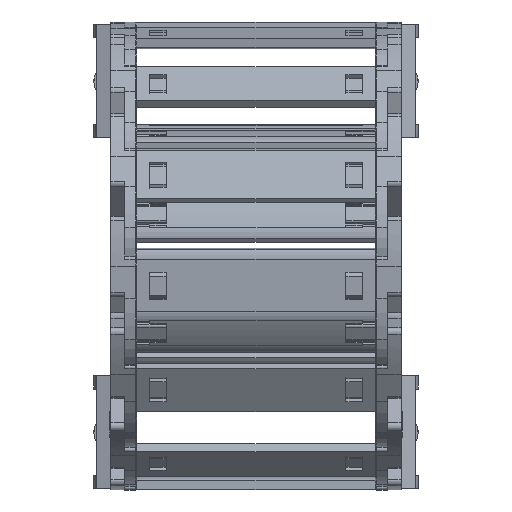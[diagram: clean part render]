
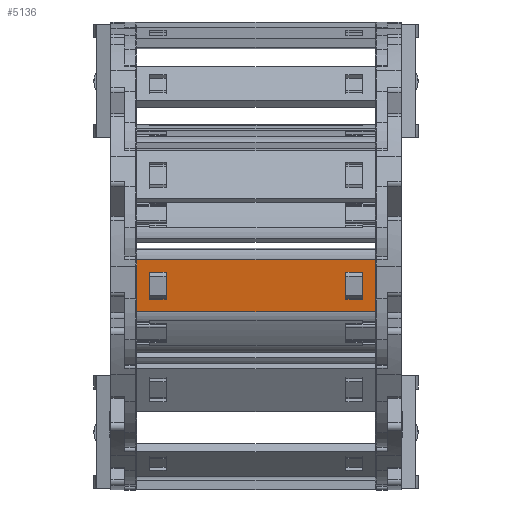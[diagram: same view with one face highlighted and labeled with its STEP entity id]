
A CAD part, top view. The second image highlights one B-rep face of the part: STEP entity #5136.
In plain terms, the highlighted planar face has unit normal (0, -0.104, 0.995) as drawn and (0, 1, 0) by its records, which use the part's own axes.
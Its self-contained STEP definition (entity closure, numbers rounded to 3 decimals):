
#4541=DIRECTION('',(0.,0.,-1.));
#4542=VECTOR('',#4541,11.);
#4543=CARTESIAN_POINT('',(39.283,1.24,5.5));
#4544=LINE('',#4543,#4542);
#4567=DIRECTION('',(1.,0.,0.));
#4568=VECTOR('',#4567,50.5);
#4569=CARTESIAN_POINT('',(-11.217,1.24,5.5));
#4570=LINE('',#4569,#4568);
#4571=DIRECTION('',(0.,0.,1.));
#4572=VECTOR('',#4571,11.);
#4573=CARTESIAN_POINT('',(-11.217,1.24,-5.5));
#4574=LINE('',#4573,#4572);
#4597=DIRECTION('',(1.,0.,0.));
#4598=VECTOR('',#4597,50.5);
#4599=CARTESIAN_POINT('',(-11.217,1.24,-5.5));
#4600=LINE('',#4599,#4598);
#4601=DIRECTION('',(1.,0.,0.));
#4602=VECTOR('',#4601,3.6);
#4603=CARTESIAN_POINT('',(-8.605,1.24,2.899));
#4604=LINE('',#4603,#4602);
#4605=DIRECTION('',(0.,0.,-1.));
#4606=VECTOR('',#4605,5.798);
#4607=CARTESIAN_POINT('',(-5.005,1.24,2.899));
#4608=LINE('',#4607,#4606);
#4609=DIRECTION('',(-1.,0.,0.));
#4610=VECTOR('',#4609,3.6);
#4611=CARTESIAN_POINT('',(-5.005,1.24,-2.899));
#4612=LINE('',#4611,#4610);
#4613=DIRECTION('',(0.,0.,1.));
#4614=VECTOR('',#4613,5.798);
#4615=CARTESIAN_POINT('',(-8.605,1.24,-2.899));
#4616=LINE('',#4615,#4614);
#4617=DIRECTION('',(1.,0.,0.));
#4618=VECTOR('',#4617,3.6);
#4619=CARTESIAN_POINT('',(33.071,1.24,2.899));
#4620=LINE('',#4619,#4618);
#4621=DIRECTION('',(0.,0.,-1.));
#4622=VECTOR('',#4621,5.798);
#4623=CARTESIAN_POINT('',(36.671,1.24,2.899));
#4624=LINE('',#4623,#4622);
#4625=DIRECTION('',(-1.,0.,0.));
#4626=VECTOR('',#4625,3.6);
#4627=CARTESIAN_POINT('',(36.671,1.24,-2.899));
#4628=LINE('',#4627,#4626);
#4629=DIRECTION('',(0.,0.,1.));
#4630=VECTOR('',#4629,5.798);
#4631=CARTESIAN_POINT('',(33.071,1.24,-2.899));
#4632=LINE('',#4631,#4630);
#4940=CARTESIAN_POINT('',(39.283,1.24,5.5));
#4942=VERTEX_POINT('',#4940);
#4943=CARTESIAN_POINT('',(39.283,1.24,-5.5));
#4944=VERTEX_POINT('',#4943);
#4951=CARTESIAN_POINT('',(33.071,1.24,2.899));
#4952=CARTESIAN_POINT('',(36.671,1.24,2.899));
#4953=VERTEX_POINT('',#4951);
#4954=VERTEX_POINT('',#4952);
#4955=CARTESIAN_POINT('',(36.671,1.24,-2.899));
#4956=VERTEX_POINT('',#4955);
#4957=CARTESIAN_POINT('',(33.071,1.24,-2.899));
#4958=VERTEX_POINT('',#4957);
#4995=CARTESIAN_POINT('',(-11.217,1.24,5.5));
#4997=VERTEX_POINT('',#4995);
#4999=CARTESIAN_POINT('',(-11.217,1.24,-5.5));
#5000=VERTEX_POINT('',#4999);
#5007=CARTESIAN_POINT('',(-8.605,1.24,2.899));
#5008=CARTESIAN_POINT('',(-5.005,1.24,2.899));
#5009=VERTEX_POINT('',#5007);
#5010=VERTEX_POINT('',#5008);
#5011=CARTESIAN_POINT('',(-5.005,1.24,-2.899));
#5012=VERTEX_POINT('',#5011);
#5013=CARTESIAN_POINT('',(-8.605,1.24,-2.899));
#5014=VERTEX_POINT('',#5013);
#5104=CARTESIAN_POINT('',(51.769,1.24,6.978));
#5105=DIRECTION('',(0.,-1.,0.));
#5106=DIRECTION('',(0.,0.,-1.));
#5107=AXIS2_PLACEMENT_3D('',#5104,#5105,#5106);
#5108=PLANE('',#5107);
#5109=ORIENTED_EDGE('',*,*,#5050,.F.);
#5110=ORIENTED_EDGE('',*,*,#5073,.F.);
#5111=ORIENTED_EDGE('',*,*,#5086,.F.);
#5113=ORIENTED_EDGE('',*,*,#5112,.T.);
#5114=EDGE_LOOP('',(#5109,#5110,#5111,#5113));
#5115=FACE_OUTER_BOUND('',#5114,.F.);
#5117=ORIENTED_EDGE('',*,*,#5116,.T.);
#5119=ORIENTED_EDGE('',*,*,#5118,.T.);
#5121=ORIENTED_EDGE('',*,*,#5120,.T.);
#5123=ORIENTED_EDGE('',*,*,#5122,.T.);
#5124=EDGE_LOOP('',(#5117,#5119,#5121,#5123));
#5125=FACE_BOUND('',#5124,.F.);
#5127=ORIENTED_EDGE('',*,*,#5126,.T.);
#5129=ORIENTED_EDGE('',*,*,#5128,.T.);
#5131=ORIENTED_EDGE('',*,*,#5130,.T.);
#5133=ORIENTED_EDGE('',*,*,#5132,.T.);
#5134=EDGE_LOOP('',(#5127,#5129,#5131,#5133));
#5135=FACE_BOUND('',#5134,.F.);
#5136=ADVANCED_FACE('',(#5115,#5125,#5135),#5108,.F.);
#5050=EDGE_CURVE('',#4942,#4944,#4544,.T.);
#5073=EDGE_CURVE('',#4997,#4942,#4570,.T.);
#5086=EDGE_CURVE('',#5000,#4997,#4574,.T.);
#5112=EDGE_CURVE('',#5000,#4944,#4600,.T.);
#5116=EDGE_CURVE('',#5009,#5010,#4604,.T.);
#5118=EDGE_CURVE('',#5010,#5012,#4608,.T.);
#5120=EDGE_CURVE('',#5012,#5014,#4612,.T.);
#5122=EDGE_CURVE('',#5014,#5009,#4616,.T.);
#5126=EDGE_CURVE('',#4953,#4954,#4620,.T.);
#5128=EDGE_CURVE('',#4954,#4956,#4624,.T.);
#5130=EDGE_CURVE('',#4956,#4958,#4628,.T.);
#5132=EDGE_CURVE('',#4958,#4953,#4632,.T.);
